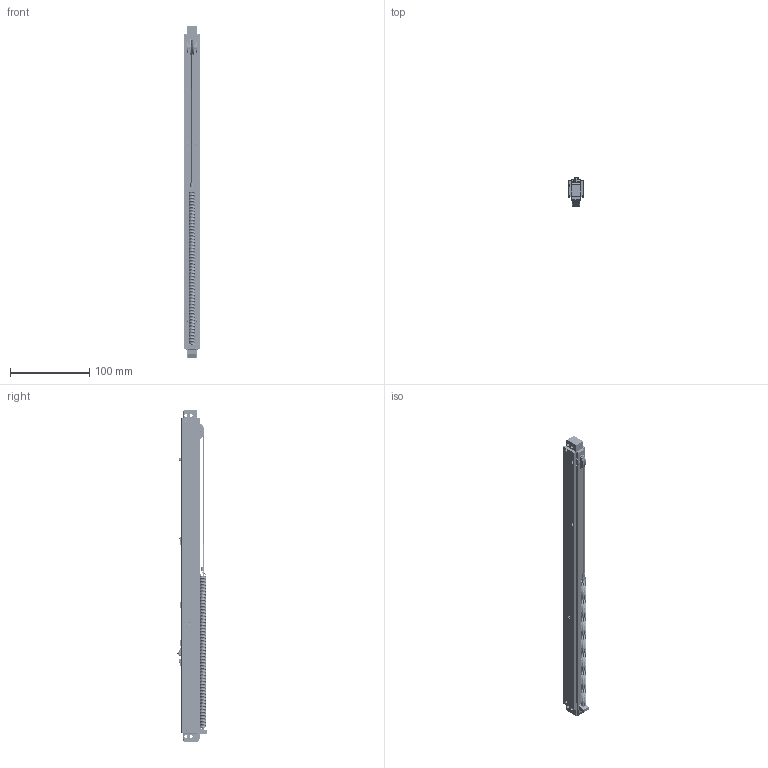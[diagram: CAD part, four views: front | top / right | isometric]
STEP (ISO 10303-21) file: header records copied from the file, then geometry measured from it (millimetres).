
FILE_DESCRIPTION((''),'2;1');
FILE_NAME('E070-08-120_SW0002','2023-05-23T20:22:42',('mlamm'),(''),'CREO PARAMETRIC BY PTC INC, 2022124','CREO PARAMETRIC BY PTC INC, 2022124','');
FILE_SCHEMA(('AUTOMOTIVE_DESIGN { 1 0 10303 214 1 1 1 1 }'));
Products named in the file (1): E070-08-120_SW0002
Bounding box: 20 x 36.69 x 418 mm (x, y, z)
Volume: 167212.6 mm3; surface area: 54772.7 mm2
Topology: 1 solids, 1 shells, 854 faces, 2273 edges, 1389 vertices
Faces by surface type: cylinder 280, plane 232, bspline 155, torus 142, cone 35, sphere 10
Entity records: 144772 total; most frequent: CARTESIAN_POINT 110477, ORIENTED_EDGE 4546, DIRECTION 3768, PRESENTATION_STYLE_ASSIGNMENT 3128, STYLED_ITEM 2274, CURVE_STYLE 2273, EDGE_CURVE 2273, AXIS2_PLACEMENT_3D 1479
